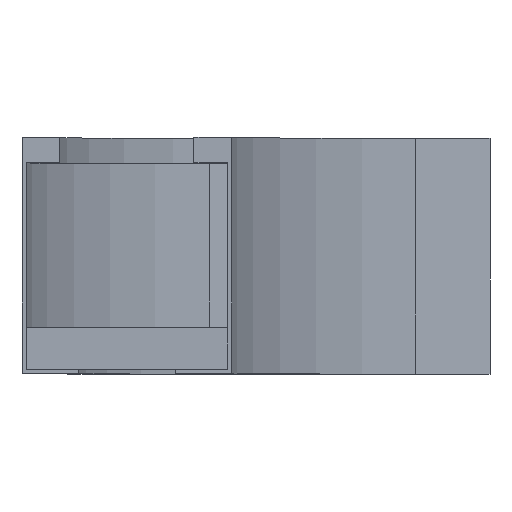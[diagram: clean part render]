
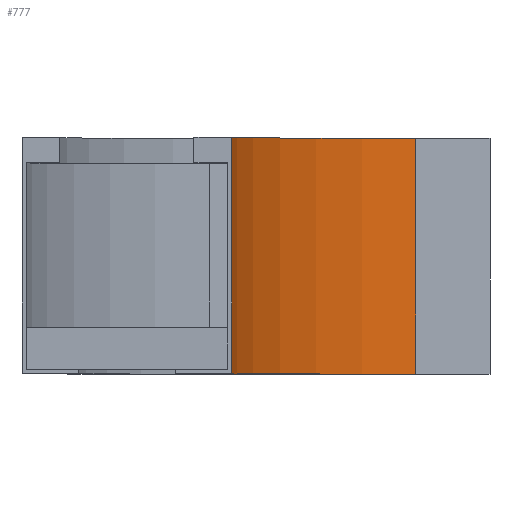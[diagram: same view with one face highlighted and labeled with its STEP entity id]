
A CAD part, top view. The second image highlights one B-rep face of the part: STEP entity #777.
In plain terms, the highlighted cylindrical face has radius 300 mm (diameter 600 mm), a partial arc.
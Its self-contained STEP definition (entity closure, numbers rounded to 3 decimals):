
#65 = ORIENTED_EDGE ( 'NONE', *, *, #484, .T. ) ;
#66 = EDGE_CURVE ( 'NONE', #399, #1326, #1545, .T. ) ;
#79 = VECTOR ( 'NONE', #1366, 1000. ) ;
#90 = CARTESIAN_POINT ( 'NONE',  ( 0., 0., -50. ) ) ;
#107 = VERTEX_POINT ( 'NONE', #111 ) ;
#111 = CARTESIAN_POINT ( 'NONE',  ( 87.868, 0., -262.132 ) ) ;
#347 = DIRECTION ( 'NONE',  ( 0., 1., 0. ) ) ;
#391 = DIRECTION ( 'NONE',  ( -1., 0., 0. ) ) ;
#399 = VERTEX_POINT ( 'NONE', #479 ) ;
#432 = CYLINDRICAL_SURFACE ( 'NONE', #933, 300. ) ;
#435 = ORIENTED_EDGE ( 'NONE', *, *, #66, .F. ) ;
#449 = CARTESIAN_POINT ( 'NONE',  ( 300., 0., -50. ) ) ;
#479 = CARTESIAN_POINT ( 'NONE',  ( 0., 112.5, -50. ) ) ;
#484 = EDGE_CURVE ( 'NONE', #107, #1326, #1228, .T. ) ;
#498 = LINE ( 'NONE', #90, #675 ) ;
#650 = EDGE_CURVE ( 'NONE', #745, #107, #1137, .T. ) ;
#675 = VECTOR ( 'NONE', #347, 1000. ) ;
#745 = VERTEX_POINT ( 'NONE', #1015 ) ;
#777 = ADVANCED_FACE ( 'NONE', ( #1280 ), #432, .F. ) ;
#784 = CARTESIAN_POINT ( 'NONE',  ( 300., 112.5, -50. ) ) ;
#913 = CARTESIAN_POINT ( 'NONE',  ( 87.868, 112.5, -262.132 ) ) ;
#933 = AXIS2_PLACEMENT_3D ( 'NONE', #449, #1481, #1600 ) ;
#1002 = EDGE_LOOP ( 'NONE', ( #435, #1369, #1573, #65 ) ) ;
#1015 = CARTESIAN_POINT ( 'NONE',  ( 0., 0., -50. ) ) ;
#1097 = CARTESIAN_POINT ( 'NONE',  ( 300., 0., -50. ) ) ;
#1115 = DIRECTION ( 'NONE',  ( 0., -1., 0. ) ) ;
#1137 = CIRCLE ( 'NONE', #1487, 300. ) ;
#1147 = DIRECTION ( 'NONE',  ( 0., -1., 0. ) ) ;
#1228 = LINE ( 'NONE', #1359, #79 ) ;
#1280 = FACE_OUTER_BOUND ( 'NONE', #1002, .T. ) ;
#1326 = VERTEX_POINT ( 'NONE', #913 ) ;
#1359 = CARTESIAN_POINT ( 'NONE',  ( 87.868, 0., -262.132 ) ) ;
#1366 = DIRECTION ( 'NONE',  ( 0., 1., 0. ) ) ;
#1369 = ORIENTED_EDGE ( 'NONE', *, *, #1503, .F. ) ;
#1408 = AXIS2_PLACEMENT_3D ( 'NONE', #784, #1147, #391 ) ;
#1481 = DIRECTION ( 'NONE',  ( 0., -1., 0. ) ) ;
#1487 = AXIS2_PLACEMENT_3D ( 'NONE', #1097, #1115, #1616 ) ;
#1503 = EDGE_CURVE ( 'NONE', #745, #399, #498, .T. ) ;
#1545 = CIRCLE ( 'NONE', #1408, 300. ) ;
#1573 = ORIENTED_EDGE ( 'NONE', *, *, #650, .T. ) ;
#1600 = DIRECTION ( 'NONE',  ( 0., 0., -1. ) ) ;
#1616 = DIRECTION ( 'NONE',  ( -1., 0., 0. ) ) ;
